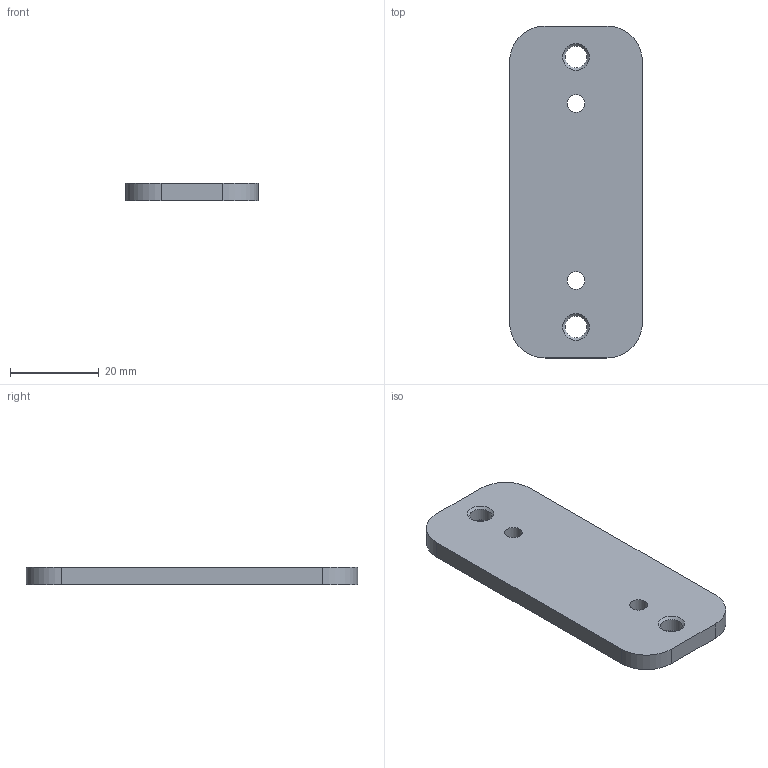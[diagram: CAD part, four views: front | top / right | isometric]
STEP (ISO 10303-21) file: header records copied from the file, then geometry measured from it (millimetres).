
FILE_DESCRIPTION(/* description */ ('STEP AP214'),/* implementation_level */ '2;1');
FILE_NAME(/* name */ 'Stainless Steel-Plate GN 7247.4-NI-75-MT',/* time_stamp */ '2023-01-25T14:09:59+01:00',/* author */ ('License CC BY-ND 4.0'),/* organization */ ('CADENAS'),/* preprocessor_version */ 'ST-DEVELOPER v18.102',/* originating_system */ 'PARTsolutions',/* authorisation */ ' ');
FILE_SCHEMA (('AUTOMOTIVE_DESIGN {1 0 10303 214 3 1 1}'));
Length unit declared in the file: millimetre
Products named in the file (1): Stainless Steel-Plate GN 7247.4-NI-75-MT
Bounding box: 30 x 75 x 4 mm (x, y, z)
Volume: 8518.1 mm3; surface area: 5255 mm2
Topology: 1 solids, 1 shells, 18 faces, 44 edges, 28 vertices
Faces by surface type: cylinder 8, plane 6, cone 4
Full cylindrical faces by diameter (mm): 4 x2, 4.917 x2
Entity records: 542 total; most frequent: DIRECTION 94, CARTESIAN_POINT 83, ORIENTED_EDGE 72, AXIS2_PLACEMENT_3D 39, EDGE_CURVE 36, EDGE_LOOP 34, FACE_BOUND 34, VERTEX_POINT 28
